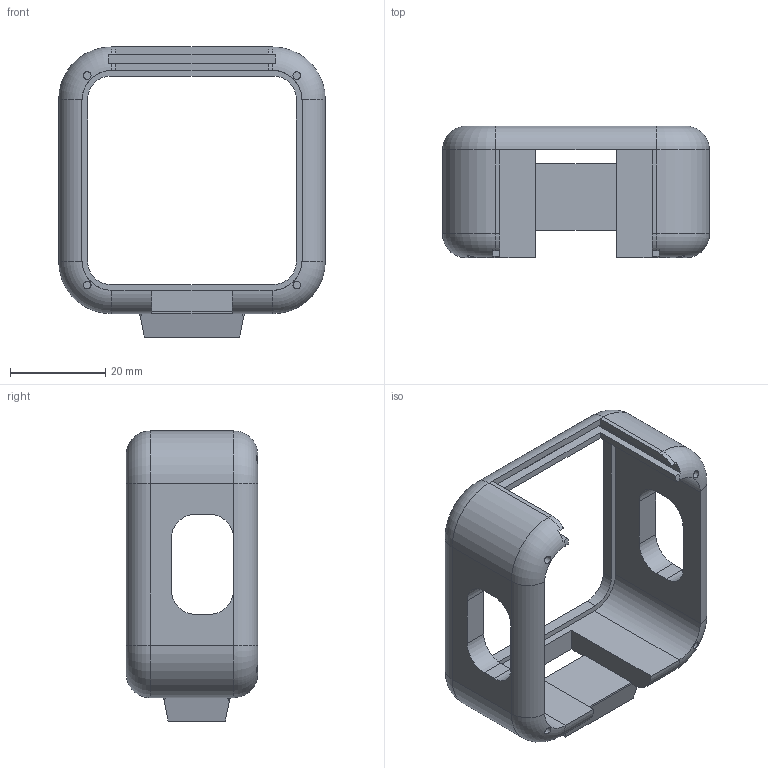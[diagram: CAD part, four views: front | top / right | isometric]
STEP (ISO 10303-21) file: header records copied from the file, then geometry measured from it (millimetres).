
FILE_DESCRIPTION(('Open CASCADE Model'),'2;1');
FILE_NAME('Open CASCADE Shape Model','2026-09-28T14:43:36',('Author'),( 'Open CASCADE'),'Open CASCADE STEP processor 7.8','Open CASCADE 7.8' ,'Unknown');
FILE_SCHEMA(('AUTOMOTIVE_DESIGN { 1 0 10303 214 1 1 1 1 }'));
Length unit declared in the file: millimetre
Products named in the file (1): Open CASCADE STEP translator 7.8 2
Bounding box: 56 x 27.6 x 60.9 mm (x, y, z)
Volume: 17466.4 mm3; surface area: 10819.7 mm2
Topology: 1 solids, 1 shells, 98 faces, 260 edges, 166 vertices
Faces by surface type: plane 46, cylinder 40, torus 8, bspline 4
Full cylindrical faces by diameter (mm): 1.6 x4
Entity records: 9364 total; most frequent: CARTESIAN_POINT 4324, DIRECTION 887, ORIENTED_EDGE 520, PCURVE 520, DEFINITIONAL_REPRESENTATION 520, LINE 518, VECTOR 518, EDGE_CURVE 260
